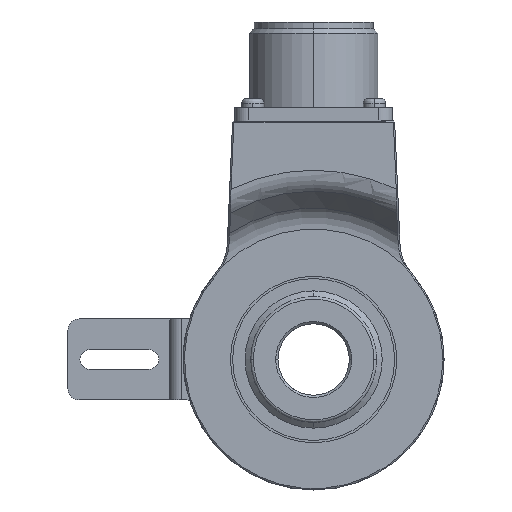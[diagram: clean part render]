
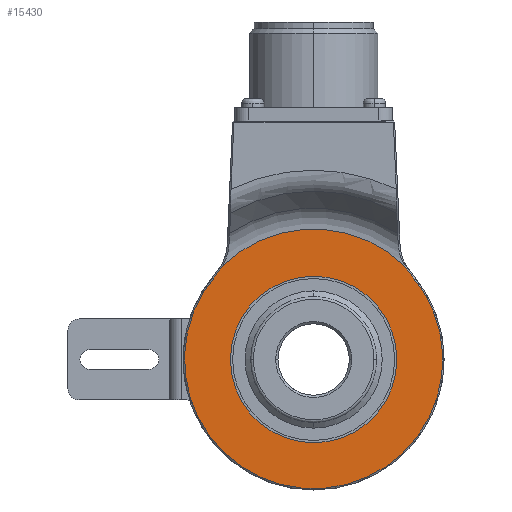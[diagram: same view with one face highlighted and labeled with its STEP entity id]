
A CAD part, left-side view. The second image highlights one B-rep face of the part: STEP entity #15430.
In plain terms, the highlighted planar face has unit normal (-1, 0, 0).
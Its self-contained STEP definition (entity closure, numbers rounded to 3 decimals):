
#187 = AXIS2_PLACEMENT_3D ( 'NONE', #4210, #1911, #17790 ) ;
#810 = CARTESIAN_POINT ( 'NONE',  ( -27., 21.484, 19.029 ) ) ;
#1885 = CARTESIAN_POINT ( 'NONE',  ( -27., 20.24, 20.769 ) ) ;
#1911 = DIRECTION ( 'NONE',  ( -1., 0., 0. ) ) ;
#1937 = AXIS2_PLACEMENT_3D ( 'NONE', #7029, #14520, #22776 ) ;
#2721 = ORIENTED_EDGE ( 'NONE', *, *, #12778, .T. ) ;
#2878 = CARTESIAN_POINT ( 'NONE',  ( -27., -20.24, 20.769 ) ) ;
#3216 = FACE_OUTER_BOUND ( 'NONE', #8163, .T. ) ;
#3558 = VERTEX_POINT ( 'NONE', #810 ) ;
#3913 = DIRECTION ( 'NONE',  ( -1., 0., 0. ) ) ;
#4037 = DIRECTION ( 'NONE',  ( 0., 0., -1. ) ) ;
#4098 = AXIS2_PLACEMENT_3D ( 'NONE', #16934, #20951, #19252 ) ;
#4116 = DIRECTION ( 'NONE',  ( 0., 0., -1. ) ) ;
#4158 = DIRECTION ( 'NONE',  ( -1., 0., 0. ) ) ;
#4210 = CARTESIAN_POINT ( 'NONE',  ( -27., 0., 0. ) ) ;
#4501 = CIRCLE ( 'NONE', #11927, 18.5 ) ;
#5615 = ORIENTED_EDGE ( 'NONE', *, *, #10787, .T. ) ;
#6083 = CIRCLE ( 'NONE', #1937, 10.3 ) ;
#7029 = CARTESIAN_POINT ( 'NONE',  ( -27., 29.195, 25.859 ) ) ;
#7829 = EDGE_CURVE ( 'NONE', #25435, #8773, #16646, .T. ) ;
#8163 = EDGE_LOOP ( 'NONE', ( #20582, #5615, #20659, #2721 ) ) ;
#8773 = VERTEX_POINT ( 'NONE', #1885 ) ;
#9690 = CIRCLE ( 'NONE', #187, 28.7 ) ;
#10178 = VERTEX_POINT ( 'NONE', #19849 ) ;
#10495 = CARTESIAN_POINT ( 'NONE',  ( -27., -21.484, 19.029 ) ) ;
#10787 = EDGE_CURVE ( 'NONE', #14923, #25435, #15538, .T. ) ;
#11511 = CIRCLE ( 'NONE', #19334, 18.5 ) ;
#11695 = AXIS2_PLACEMENT_3D ( 'NONE', #11811, #19693, #20069 ) ;
#11811 = CARTESIAN_POINT ( 'NONE',  ( -27., 0., 0. ) ) ;
#11927 = AXIS2_PLACEMENT_3D ( 'NONE', #21525, #4158, #21884 ) ;
#12778 = EDGE_CURVE ( 'NONE', #8773, #3558, #6083, .T. ) ;
#12825 = FACE_BOUND ( 'NONE', #25116, .T. ) ;
#13770 = CARTESIAN_POINT ( 'NONE',  ( -27., 0., 0. ) ) ;
#14095 = CARTESIAN_POINT ( 'NONE',  ( -27., -29.195, 25.859 ) ) ;
#14132 = EDGE_CURVE ( 'NONE', #10178, #23675, #4501, .T. ) ;
#14278 = EDGE_CURVE ( 'NONE', #23675, #10178, #11511, .T. ) ;
#14293 = AXIS2_PLACEMENT_3D ( 'NONE', #14095, #15534, #4116 ) ;
#14459 = ORIENTED_EDGE ( 'NONE', *, *, #14278, .F. ) ;
#14520 = DIRECTION ( 'NONE',  ( 1., 0., 0. ) ) ;
#14923 = VERTEX_POINT ( 'NONE', #10495 ) ;
#15430 = ADVANCED_FACE ( 'NONE', ( #12825, #3216 ), #20701, .T. ) ;
#15534 = DIRECTION ( 'NONE',  ( 1., 0., 0. ) ) ;
#15538 = CIRCLE ( 'NONE', #14293, 10.3 ) ;
#16646 = CIRCLE ( 'NONE', #11695, 29. ) ;
#16934 = CARTESIAN_POINT ( 'NONE',  ( -27., 0., 0. ) ) ;
#17069 = EDGE_CURVE ( 'NONE', #3558, #14923, #9690, .T. ) ;
#17790 = DIRECTION ( 'NONE',  ( 0., 0., -1. ) ) ;
#18443 = CARTESIAN_POINT ( 'NONE',  ( -27., 0., 18.5 ) ) ;
#19129 = ORIENTED_EDGE ( 'NONE', *, *, #14132, .F. ) ;
#19252 = DIRECTION ( 'NONE',  ( 0., 0., -1. ) ) ;
#19334 = AXIS2_PLACEMENT_3D ( 'NONE', #13770, #3913, #4037 ) ;
#19693 = DIRECTION ( 'NONE',  ( -1., 0., 0. ) ) ;
#19849 = CARTESIAN_POINT ( 'NONE',  ( -27., 0., -18.5 ) ) ;
#20069 = DIRECTION ( 'NONE',  ( 0., 0., -1. ) ) ;
#20582 = ORIENTED_EDGE ( 'NONE', *, *, #17069, .T. ) ;
#20659 = ORIENTED_EDGE ( 'NONE', *, *, #7829, .T. ) ;
#20701 = PLANE ( 'NONE',  #4098 ) ;
#20951 = DIRECTION ( 'NONE',  ( -1., 0., 0. ) ) ;
#21525 = CARTESIAN_POINT ( 'NONE',  ( -27., 0., 0. ) ) ;
#21884 = DIRECTION ( 'NONE',  ( 0., 0., -1. ) ) ;
#22776 = DIRECTION ( 'NONE',  ( 0., 0., -1. ) ) ;
#23675 = VERTEX_POINT ( 'NONE', #18443 ) ;
#25116 = EDGE_LOOP ( 'NONE', ( #19129, #14459 ) ) ;
#25435 = VERTEX_POINT ( 'NONE', #2878 ) ;
